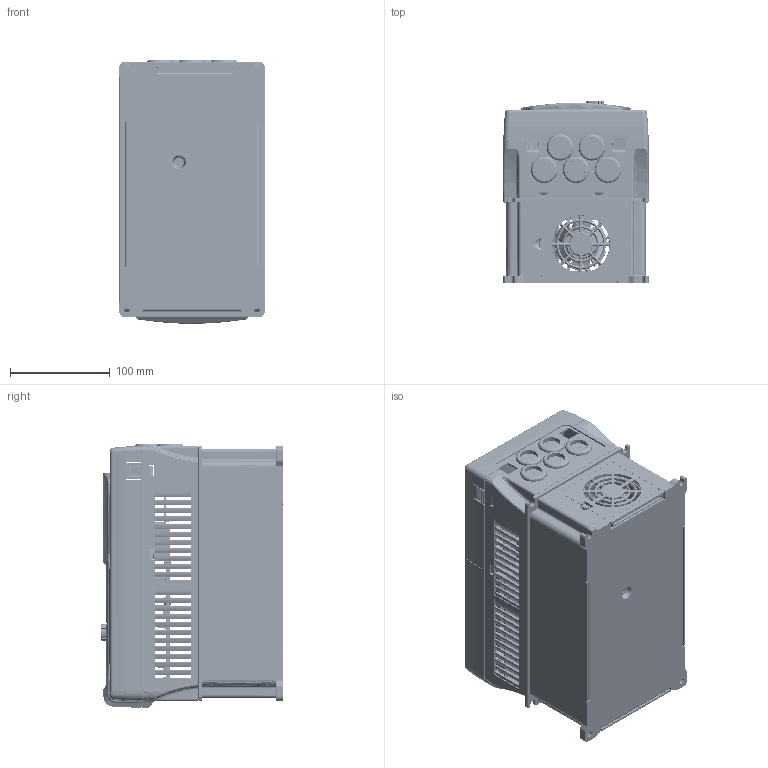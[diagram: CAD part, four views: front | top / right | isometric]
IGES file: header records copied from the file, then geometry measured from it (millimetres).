
Start section: SolidWorks IGES file using analytic representation for surfaces
Global section: file name: Z:\Products\VFD\UMI-B5\B5\UMI-[0040~0055]EU-B5_UMI-[0015~0022]CU-B5\CAD FILES\3D CAD Files\UMI-[0040~0055]EU-B5_UMI-[0015~0022]CU-B5.IGS; native system: SolidWorks 2017; preprocessor: SolidWorks 2017; author: LaorB; date: 200329.170227; units: millimetre
Bounding box: 146 x 183.05 x 264.73 mm (x, y, z)
Surface area: 771564.6 mm2 (no closed solid volume)
Topology: 0 solids, 0 shells, 7024 faces, 68155 edges, 68045 vertices
Faces by surface type: bspline 4723, revolution 2301
